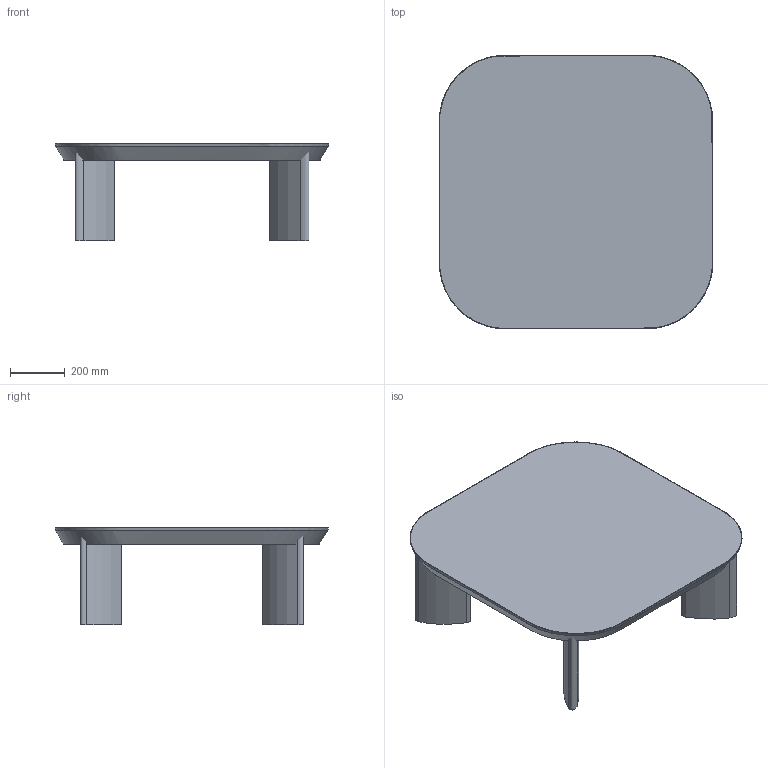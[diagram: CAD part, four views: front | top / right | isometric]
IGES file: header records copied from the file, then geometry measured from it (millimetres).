
Global section: file name: C:\Users\market02\Desktop\RYAN\FNATATA100_TABLE_NATALIE_\exportation\FNATATA100_TABLE_NATALIE_.igs; native system: Rhinoceros ( Dec 14 2021 ); preprocessor: Trout Lake IGES 012 Dec 14 2021; date: 220621.141524; units: millimetre
Bounding box: 1000.41 x 1000.41 x 356.83 mm (x, y, z)
Surface area: 2720131.6 mm2 (no closed solid volume)
Topology: 0 solids, 0 shells, 30 faces, 416 edges, 410 vertices
Faces by surface type: bspline 30
